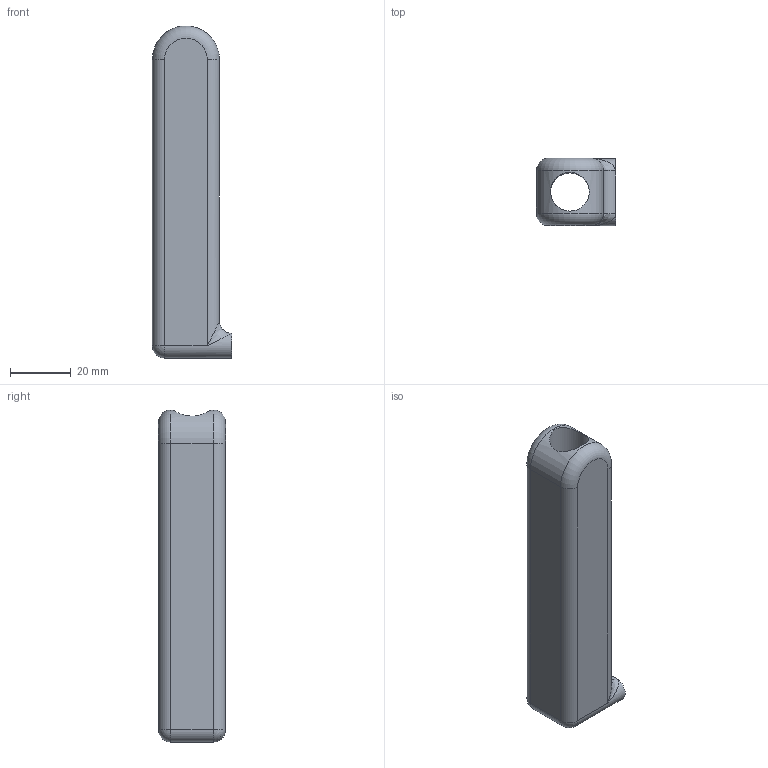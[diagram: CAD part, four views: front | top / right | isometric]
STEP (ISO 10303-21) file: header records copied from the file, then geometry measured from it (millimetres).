
FILE_DESCRIPTION(/* description */ (''),/* implementation_level */ '2;1');
FILE_NAME(/* name */ 'C:/Users/Owner/Desktop/K-CAD Songbird PM4 Centerfire/STEP/Barrels/Barrel Type 2/Barrel Type 2 .5 inch ID.step',/* time_stamp */ '2020-12-05T21:34:02-05:00',/* author */ (''),/* organization */ (''),/* preprocessor_version */ 'ST-DEVELOPER v18.1',/* originating_system */ 'Autodesk Translation Framework v9.3.0.1241',/* authorisation */ '');
FILE_SCHEMA (('AUTOMOTIVE_DESIGN { 1 0 10303 214 3 1 1 }'));
Length unit declared in the file: inch
Products named in the file (1): Barrel Type 2 .5 inch ID
Bounding box: 26 x 22 x 109 mm (x, y, z)
Volume: 36854.1 mm3; surface area: 13585.3 mm2
Topology: 1 solids, 1 shells, 22 faces, 49 edges, 26 vertices
Faces by surface type: cylinder 10, plane 6, bspline 2, sphere 2, torus 2
Full cylindrical faces by diameter (mm): 12.7 x1
Entity records: 732 total; most frequent: CARTESIAN_POINT 206, DIRECTION 112, ORIENTED_EDGE 92, EDGE_CURVE 46, AXIS2_PLACEMENT_3D 46, VERTEX_POINT 26, EDGE_LOOP 24, FACE_OUTER_BOUND 22
